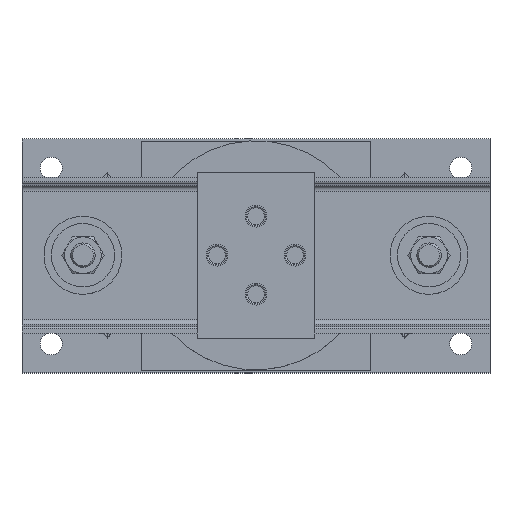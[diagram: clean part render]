
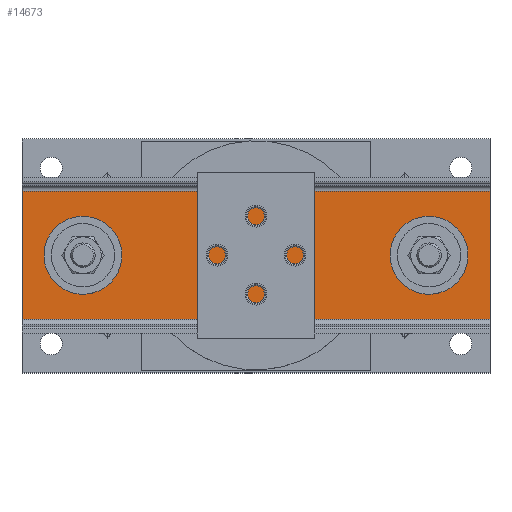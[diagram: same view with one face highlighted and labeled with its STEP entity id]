
A CAD part, top view. The second image highlights one B-rep face of the part: STEP entity #14673.
In plain terms, the highlighted planar face has unit normal (0, 0, 1).
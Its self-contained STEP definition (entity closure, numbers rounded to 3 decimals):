
#2003=FACE_BOUND('',#3742,.T.);
#2004=FACE_BOUND('',#3743,.T.);
#2005=FACE_BOUND('',#3744,.T.);
#2207=CIRCLE('',#15802,0.188);
#2209=CIRCLE('',#15805,1.125);
#2211=CIRCLE('',#15808,1.125);
#2664=FACE_OUTER_BOUND('',#3741,.T.);
#3741=EDGE_LOOP('',(#9624,#9625,#9626,#9627));
#3742=EDGE_LOOP('',(#9628));
#3743=EDGE_LOOP('',(#9629));
#3744=EDGE_LOOP('',(#9630));
#4870=LINE('',#19149,#5376);
#4894=LINE('',#19208,#5400);
#4895=LINE('',#19211,#5401);
#4896=LINE('',#19212,#5402);
#5376=VECTOR('',#17023,24.);
#5400=VECTOR('',#17077,24.);
#5401=VECTOR('',#17082,6.572);
#5402=VECTOR('',#17083,6.572);
#5896=VERTEX_POINT('',#19129);
#5898=VERTEX_POINT('',#19134);
#5900=VERTEX_POINT('',#19139);
#5901=VERTEX_POINT('',#19142);
#5904=VERTEX_POINT('',#19147);
#5923=VERTEX_POINT('',#19205);
#5924=VERTEX_POINT('',#19207);
#7201=EDGE_CURVE('',#5896,#5896,#2207,.T.);
#7203=EDGE_CURVE('',#5898,#5898,#2209,.T.);
#7205=EDGE_CURVE('',#5900,#5900,#2211,.T.);
#7209=EDGE_CURVE('',#5904,#5901,#4870,.T.);
#7238=EDGE_CURVE('',#5924,#5923,#4894,.T.);
#7240=EDGE_CURVE('',#5923,#5901,#4895,.T.);
#7241=EDGE_CURVE('',#5924,#5904,#4896,.T.);
#9624=ORIENTED_EDGE('',*,*,#7240,.T.);
#9625=ORIENTED_EDGE('',*,*,#7209,.F.);
#9626=ORIENTED_EDGE('',*,*,#7241,.F.);
#9627=ORIENTED_EDGE('',*,*,#7238,.T.);
#9628=ORIENTED_EDGE('',*,*,#7201,.T.);
#9629=ORIENTED_EDGE('',*,*,#7203,.T.);
#9630=ORIENTED_EDGE('',*,*,#7205,.T.);
#13276=PLANE('',#15828);
#14673=ADVANCED_FACE('',(#2664,#2003,#2004,#2005),#13276,.T.);
#15802=AXIS2_PLACEMENT_3D('',#19130,#17002,#17003);
#15805=AXIS2_PLACEMENT_3D('',#19135,#17008,#17009);
#15808=AXIS2_PLACEMENT_3D('',#19140,#17014,#17015);
#15828=AXIS2_PLACEMENT_3D('',#19210,#17080,#17081);
#17002=DIRECTION('center_axis',(0.,0.,
-1.));
#17003=DIRECTION('ref_axis',(1.,0.,0.));
#17008=DIRECTION('center_axis',(0.,0.,
-1.));
#17009=DIRECTION('ref_axis',(1.,0.,0.));
#17014=DIRECTION('center_axis',(0.,0.,
-1.));
#17015=DIRECTION('ref_axis',(1.,0.,0.));
#17023=DIRECTION('',(-1.,0.,0.));
#17077=DIRECTION('',(-1.,0.,0.));
#17080=DIRECTION('center_axis',(0.,0.,
1.));
#17081=DIRECTION('ref_axis',(1.,0.,0.));
#17082=DIRECTION('',(0.,-1.,0.));
#17083=DIRECTION('',(0.,-1.,0.));
#19129=CARTESIAN_POINT('',(0.187,0.,22.71));
#19130=CARTESIAN_POINT('Origin',(0.,0.,
22.71));
#19134=CARTESIAN_POINT('',(10.,0.,22.71));
#19135=CARTESIAN_POINT('Origin',(8.875,0.,
22.71));
#19139=CARTESIAN_POINT('',(-7.75,0.,22.71));
#19140=CARTESIAN_POINT('Origin',(-8.875,0.,
22.71));
#19142=CARTESIAN_POINT('',(-12.,-3.286,22.71));
#19147=CARTESIAN_POINT('',(12.,-3.286,22.71));
#19149=CARTESIAN_POINT('',(12.,-3.286,22.71));
#19205=CARTESIAN_POINT('',(-12.,3.286,22.71));
#19207=CARTESIAN_POINT('',(12.,3.286,22.71));
#19208=CARTESIAN_POINT('',(12.,3.286,22.71));
#19210=CARTESIAN_POINT('Origin',(12.,0.,22.71));
#19211=CARTESIAN_POINT('',(-12.,0.,22.71));
#19212=CARTESIAN_POINT('',(12.,0.,22.71));
